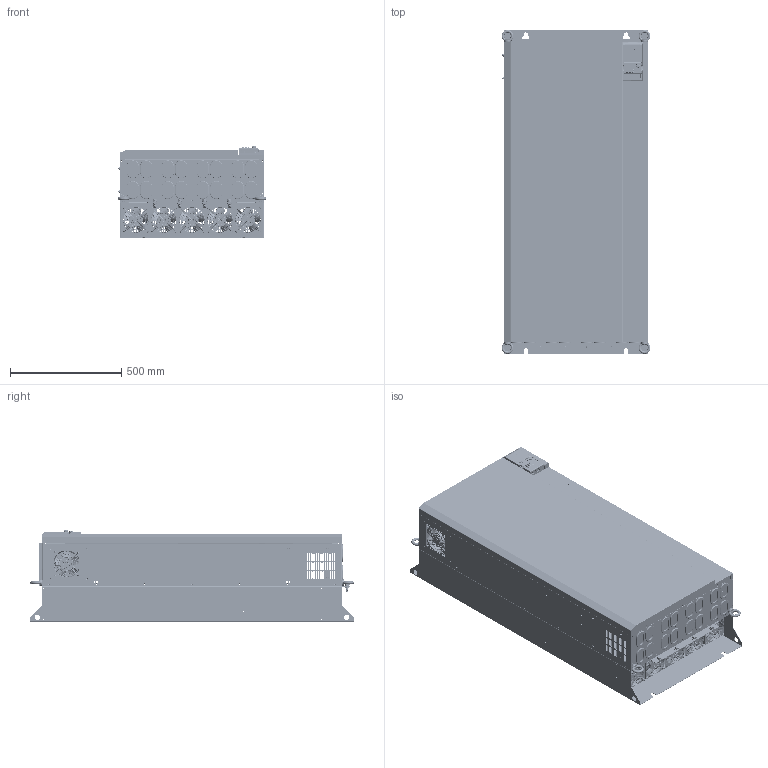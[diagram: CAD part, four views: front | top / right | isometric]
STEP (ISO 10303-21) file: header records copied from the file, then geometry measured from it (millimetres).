
FILE_DESCRIPTION((''),'2;1');
FILE_NAME('VFC5610-315K-3P4-MNA-7P-NNNNN-N','2023-03-27T16:27:28',('ZUX1XI'),(''),'CREO PARAMETRIC BY PTC INC, 2021072','CREO PARAMETRIC BY PTC INC, 2021072','');
FILE_SCHEMA(('AUTOMOTIVE_DESIGN { 1 0 10303 214 1 1 1 1 }'));
Products named in the file (83): SV5N_BASE_P1_A_4_1_1; SV5N_BASE_P1_A_4_1; SV5N_BASE_P2_A_3_1_1; SV5N_BASE_P2_A_3_1; SV5N_BASE_P3_A_3_1_1; SV5N_BASE_P3_A_3_1; SV5N_BASE_A_4_1; HOLDER_SV5N_HEATSINK_A_6_1_1; HOLDER_SV5N_HEATSINK_A_6_1; FAN_ADDA_AD1224UB-F51_1_1; E_FENGSHANZHAO_D120_1_1_1; E_FENGSHANZHAO_D120_1_2_1; E_FENGSHANZHAO_D120_1_3_1; E_FENGSHANZHAO_D120_1_4_1; E_FENGSHANZHAO_D120_1_5_1; E_FENGSHANZHAO_D120_1_6_1; E_FENGSHANZHAO_D120_1_7_1; E_FENGSHANZHAO_D120_1_8_1; E_FENGSHANZHAO_D120_1_9_1; E_FENGSHANZHAO_D120_1_10_1; E_FENGSHANZHAO_D120_1_1; HOLDER_SV5N_GND_A_4_1_1; HOLDER_SV5N_GND_A_4_6_1; HOLDER_SV5N_GND_A_4_7_1; HOLDER_SV5N_GND_A_4_8_1; HOLDER_SV5N_GND_A_4_9_1; HOLDER_SV5N_GND_A_4_10_1; HOLDER_SV5N_GND_A_4_11_1; HOLDER_SV5N_GND_A_4_12_1; HOLDER_SV5N_GND_A_4_13_1; HOLDER_SV5N_GND_A_4_14_1; HOLDER_SV5N_GND_A_4_15_1; HOLDER_SV5N_GND_A_4_16_1; HOLDER_SV5N_GND_A_4_17_1; HOLDER_SV5N_GND_A_4_1; SV5N_BOTTOM_P1_A_5_1_1; SV5N_BOTTOM_P1_A_5_1; SV5N_BOTTOM_A_3_1; HOUSING_HUXIANTAO_1_1; SV5N_RIGHT_P1_A_7_1_1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
Assembly tree (142 placements, depth 8):
  VFC5610-315K-3P4-MNA-7P-NNNNN-N
    VFC5610-315K-3P4-MNA-7P-NNNNN_1
      00_VFC5610_315KW_30_1
        SV5N_BASE_A_4_1
          SV5N_BASE_P1_A_4_1
            SV5N_BASE_P1_A_4_1_1
          SV5N_BASE_P2_A_3_1
            SV5N_BASE_P2_A_3_1_1
          SV5N_BASE_P3_A_3_1
            SV5N_BASE_P3_A_3_1_1
        HOLDER_SV5N_HEATSINK_A_6_1
          HOLDER_SV5N_HEATSINK_A_6_1_1
        FAN_ADDA_AD1224UB-F51_1_1  x6
        E_FENGSHANZHAO_D120_1_1  x6
          E_FENGSHANZHAO_D120_1_1_1
          E_FENGSHANZHAO_D120_1_2_1
          E_FENGSHANZHAO_D120_1_3_1
          E_FENGSHANZHAO_D120_1_4_1
          E_FENGSHANZHAO_D120_1_5_1
          E_FENGSHANZHAO_D120_1_6_1
          E_FENGSHANZHAO_D120_1_7_1
          E_FENGSHANZHAO_D120_1_8_1
          E_FENGSHANZHAO_D120_1_9_1
          E_FENGSHANZHAO_D120_1_10_1
        HOLDER_SV5N_GND_A_4_1
          HOLDER_SV5N_GND_A_4_1_1
          HOLDER_SV5N_GND_A_4_6_1
          HOLDER_SV5N_GND_A_4_7_1
          HOLDER_SV5N_GND_A_4_8_1
          HOLDER_SV5N_GND_A_4_9_1
          HOLDER_SV5N_GND_A_4_10_1
          HOLDER_SV5N_GND_A_4_11_1
          HOLDER_SV5N_GND_A_4_12_1
          HOLDER_SV5N_GND_A_4_13_1
          HOLDER_SV5N_GND_A_4_14_1
          HOLDER_SV5N_GND_A_4_15_1
          HOLDER_SV5N_GND_A_4_16_1
          HOLDER_SV5N_GND_A_4_17_1
        SV5N_BOTTOM_A_3_1
          SV5N_BOTTOM_P1_A_5_1
            SV5N_BOTTOM_P1_A_5_1_1
        HOUSING_HUXIANTAO_1_1  x16
        SV5N_RIGHT_A_8_1
          SV5N_RIGHT_P1_A_7_1
            SV5N_RIGHT_P1_A_7_1_1
        SV5N_LEFT_A_6_1
          SV5N_LEFT_P1_A_11_1
            SV5N_LEFT_P1_A_11_1_1
        SV5N_TOP_A_5_1
        SV5N_TOP_COVER_A_1_1
          SV5N_TOP_COVER_A_6_1
            SV5N_TOP_COVER_A_6_1_1
            SV5N_TOP_COVER_A_6_2_1
          01_IO_ASSY_1_1
            X610_37_IO_BASE-20150120_1_1
            01-IOCASE_1_1
              PL_EFC5610_IOCAE_CONVER_1_1
              LK_YCP06_1_1
                CPU_CONNECTOR-14P_1_1
                548190519_1_1
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Bounding box: 669 x 1458 x 412.05 mm (x, y, z)
Volume: 9360657.3 mm3; surface area: 9467181.1 mm2
Topology: 160 solids, 166 shells, 19309 faces, 53811 edges, 35043 vertices
Faces by surface type: plane 8214, cylinder 7331, bspline 1984, torus 1032, cone 476, sphere 149, extrusion 123
Entity records: 443972 total; most frequent: CARTESIAN_POINT 105360, ORIENTED_EDGE 51614, DIRECTION 49894, PRESENTATION_STYLE_ASSIGNMENT 26962, STYLED_ITEM 25862, CURVE_STYLE 25807, EDGE_CURVE 25807, AXIS2_PLACEMENT_3D 16773
